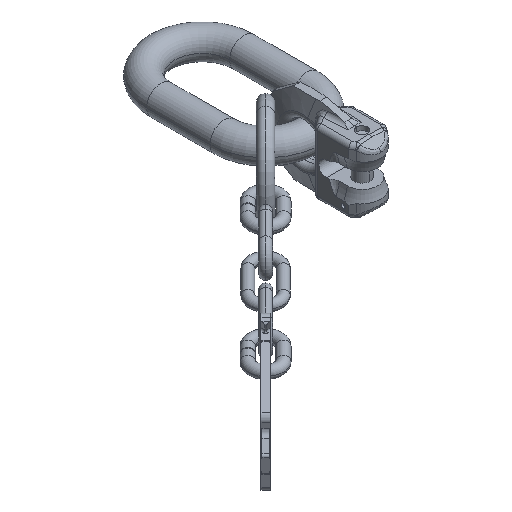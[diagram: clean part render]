
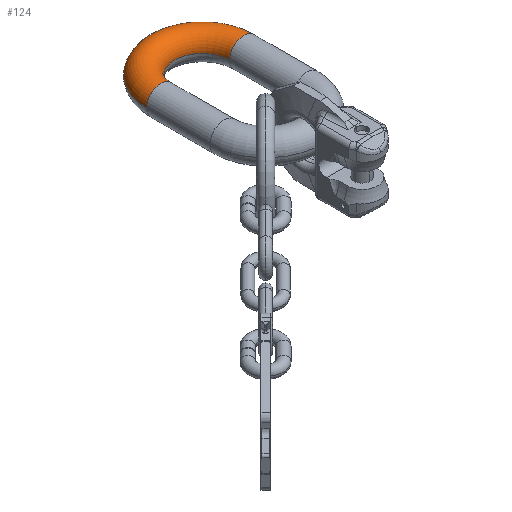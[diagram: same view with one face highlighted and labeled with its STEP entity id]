
A CAD part, isometric view. The second image highlights one B-rep face of the part: STEP entity #124.
In plain terms, the highlighted toroidal (fillet/blend) face has major radius 19 mm and minor radius 6.5 mm.
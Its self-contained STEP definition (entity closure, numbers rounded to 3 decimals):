
#6=CARTESIAN_POINT('',(-19.,29.,0.));
#7=DIRECTION('',(0.,1.,0.));
#8=DIRECTION('',(-1.,0.,0.));
#9=AXIS2_PLACEMENT_3D('',#6,#7,#8);
#11=CARTESIAN_POINT('',(0.,29.,0.));
#12=DIRECTION('',(0.,0.,-1.));
#13=DIRECTION('',(-1.,0.,0.));
#14=AXIS2_PLACEMENT_3D('',#11,#12,#13);
#16=CARTESIAN_POINT('',(19.,29.,0.));
#17=DIRECTION('',(0.,-1.,0.));
#18=DIRECTION('',(1.,0.,0.));
#19=AXIS2_PLACEMENT_3D('',#16,#17,#18);
#59=CARTESIAN_POINT('',(0.,29.,0.));
#60=DIRECTION('',(0.,0.,-1.));
#61=DIRECTION('',(-1.,0.,0.));
#62=AXIS2_PLACEMENT_3D('',#59,#60,#61);
#78=CARTESIAN_POINT('',(25.5,29.,0.));
#79=CARTESIAN_POINT('',(12.5,29.,0.));
#80=VERTEX_POINT('',#78);
#81=VERTEX_POINT('',#79);
#90=CARTESIAN_POINT('',(-25.5,29.,0.));
#91=CARTESIAN_POINT('',(-12.5,29.,0.));
#92=VERTEX_POINT('',#90);
#93=VERTEX_POINT('',#91);
#110=CARTESIAN_POINT('',(0.,29.,0.));
#111=DIRECTION('',(0.,0.,-1.));
#112=DIRECTION('',(1.,0.,0.));
#113=AXIS2_PLACEMENT_3D('',#110,#111,#112);
#114=TOROIDAL_SURFACE('',#113,19.,6.5);
#116=ORIENTED_EDGE('',*,*,#115,.F.);
#118=ORIENTED_EDGE('',*,*,#117,.T.);
#119=ORIENTED_EDGE('',*,*,#99,.T.);
#121=ORIENTED_EDGE('',*,*,#120,.F.);
#122=EDGE_LOOP('',(#116,#118,#119,#121));
#123=FACE_OUTER_BOUND('',#122,.F.);
#124=ADVANCED_FACE('',(#123),#114,.T.);
#10=CIRCLE('',#9,6.5);
#15=CIRCLE('',#14,25.5);
#20=CIRCLE('',#19,6.5);
#63=CIRCLE('',#62,12.5);
#99=EDGE_CURVE('',#80,#81,#20,.T.);
#115=EDGE_CURVE('',#92,#93,#10,.T.);
#117=EDGE_CURVE('',#92,#80,#15,.T.);
#120=EDGE_CURVE('',#93,#81,#63,.T.);
